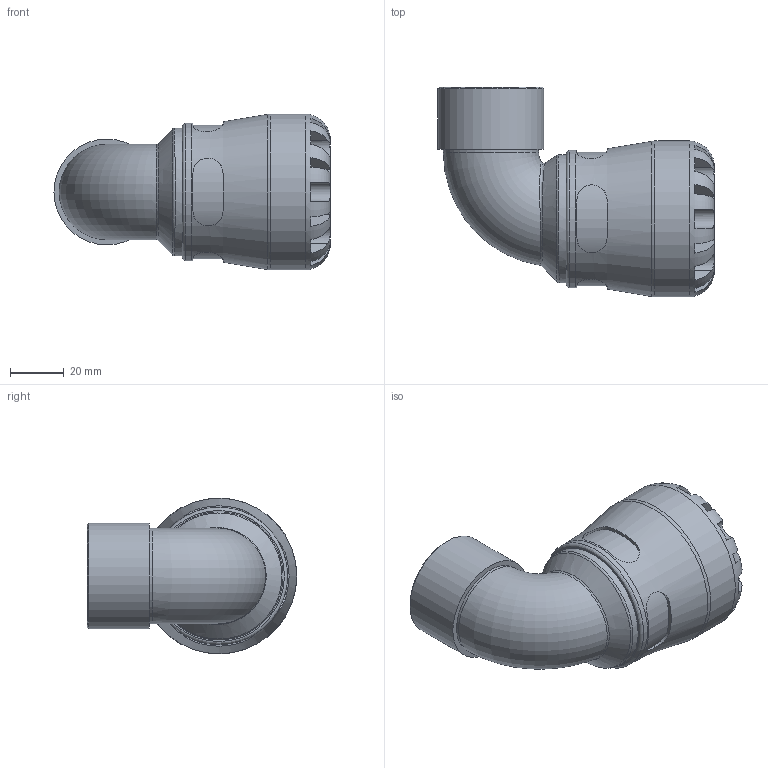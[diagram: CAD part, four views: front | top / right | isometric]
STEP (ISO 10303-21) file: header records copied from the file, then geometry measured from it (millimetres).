
FILE_DESCRIPTION(/* description */ ('PLASSON 90° ELBOW WITH THREADED FEMALE OFFTAKE 32X1" SERIES 1'),/* implementation_level */ '2;1');
FILE_NAME(/* name */ 'C:\Dropbox\KIMPROJECTS-Inventor\99-16-3568-Processing\S1\1015\101500032010_191500032010.ipt.stp',/* time_stamp */ '2017-07-30T11:51:59+03:00',/* author */ ('KIM'),/* organization */ (''),/* preprocessor_version */ 'ST-DEVELOPER v15.6',/* originating_system */ 'Autodesk Inventor 2015',/* authorisation */ '');
FILE_SCHEMA (('AUTOMOTIVE_DESIGN { 1 0 10303 214 3 1 1 }'));
Length unit declared in the file: millimetre
Products named in the file (1): 101500032010_191500032010
Bounding box: 102.69 x 78 x 58 mm (x, y, z)
Volume: 114419.4 mm3; surface area: 33187.5 mm2
Topology: 1 solids, 1 shells, 110 faces, 266 edges, 165 vertices
Faces by surface type: plane 62, cylinder 37, torus 6, bspline 3, cone 2
Full cylindrical faces by diameter (mm): 27.262 x2, 30.291 x1, 32 x1, 35.44 x1, 39.378 x1, 47.56 x1, 51.04 x1, 58 x1
Entity records: 4213 total; most frequent: CARTESIAN_POINT 1783, ORIENTED_EDGE 488, DIRECTION 487, EDGE_CURVE 244, AXIS2_PLACEMENT_3D 203, VERTEX_POINT 161, EDGE_LOOP 137, FACE_OUTER_BOUND 110
